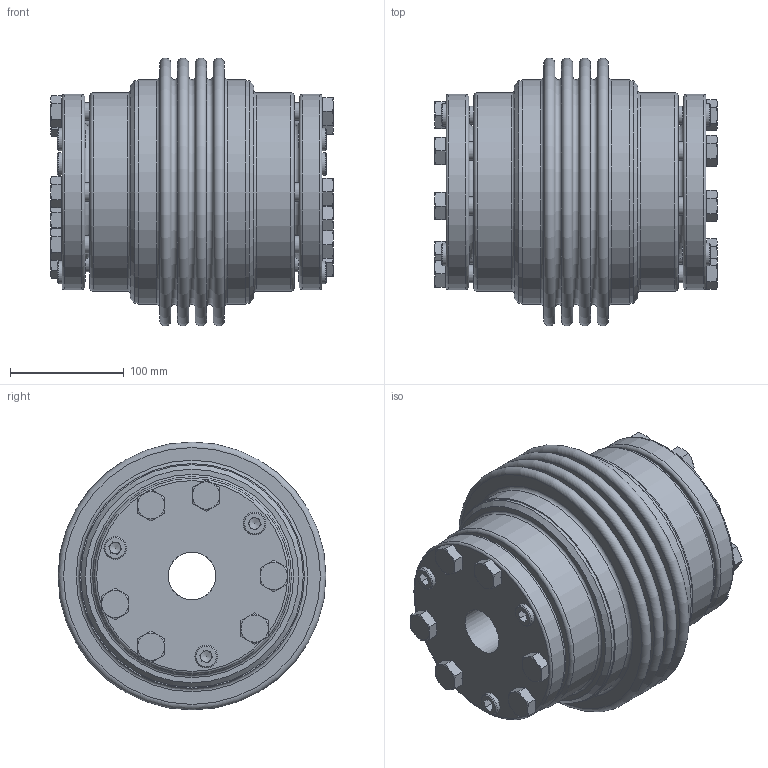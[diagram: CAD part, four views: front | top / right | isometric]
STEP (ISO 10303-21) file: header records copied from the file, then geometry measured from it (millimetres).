
FILE_DESCRIPTION(/* description */ ('Unknown','CAx-IF Rec.Pracs.---Representation and Presentation of Product Manufacturing Information (PMI)---4.0---2014-10-13','CAx-IF Rec.Pracs.---3D Tessellated Geometry---0.4---2014-09-14','2;1'),/* implementation_level */ '2;1');
FILE_NAME(/* name */ 'KSD 6000 4W',/* time_stamp */ '2024-07-22T10:09:30+02:00',/* author */ ('Unknown'),/* organization */ ('Unknown'),/* preprocessor_version */ 'ST-DEVELOPER v18.102',/* originating_system */ 'Solid Edge',/* authorisation */ 'Unknown');
FILE_SCHEMA (('AP242_MANAGED_MODEL_BASED_3D_ENGINEERING_MIM_LF { 1 0 10303 442 1 1 4 }'));
Length unit declared in the file: millimetre
Products named in the file (1): KSD 6000 4W
Bounding box: 248.8 x 236 x 236 mm (x, y, z)
Volume: 3487505.3 mm3; surface area: 619440.4 mm2
Topology: 1 solids, 13 shells, 606 faces, 1255 edges, 805 vertices
Faces by surface type: plane 252, cylinder 218, cone 106, torus 30
Full cylindrical faces by diameter (mm): 6.8 x68, 13.835 x12, 15 x6, 16 x12, 17 x12, 18.376 x6, 20 x6, 22.5 x12, 42 x2, 116 x2, 172 x2, 175 x2, 183 x2, 194 x2, 196 x2, 198 x2
Entity records: 21356 total; most frequent: CARTESIAN_POINT 5802, DIRECTION 2216, ORIENTED_EDGE 1912, FACE_BOUND 1002, EDGE_LOOP 984, EDGE_CURVE 956, AXIS2_PLACEMENT_3D 948, VERTEX_POINT 738
